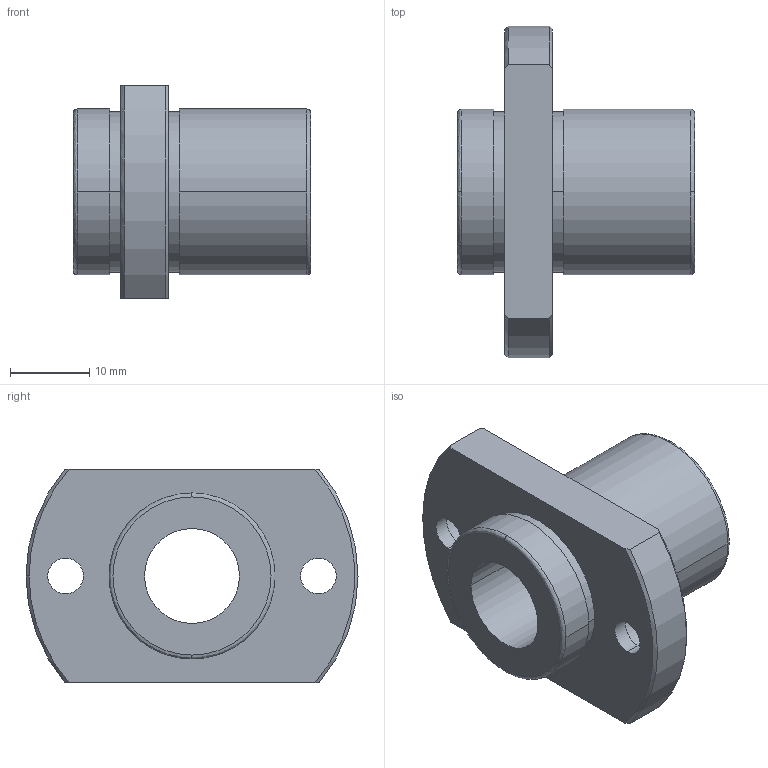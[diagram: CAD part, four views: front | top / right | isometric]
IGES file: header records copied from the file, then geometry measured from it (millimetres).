
Start section: 3D InterOp IGES (Version 21 0 1), Spatial Corp. Copyright (c) 1999-2007.
Global section: file name: NFIO-12VUU.igs; native system: Spatial Corp.; preprocessor: 3D InterOp GENERIC/IGES 3.0; author: Noname; organization: Noname; date: 20220308.102224; units: millimetre
Bounding box: 30 x 42 x 27 mm (x, y, z)
Surface area: 5537.5 mm2 (no closed solid volume)
Topology: 0 solids, 0 shells, 41 faces, 194 edges, 194 vertices
Faces by surface type: revolution 31, extrusion 10
